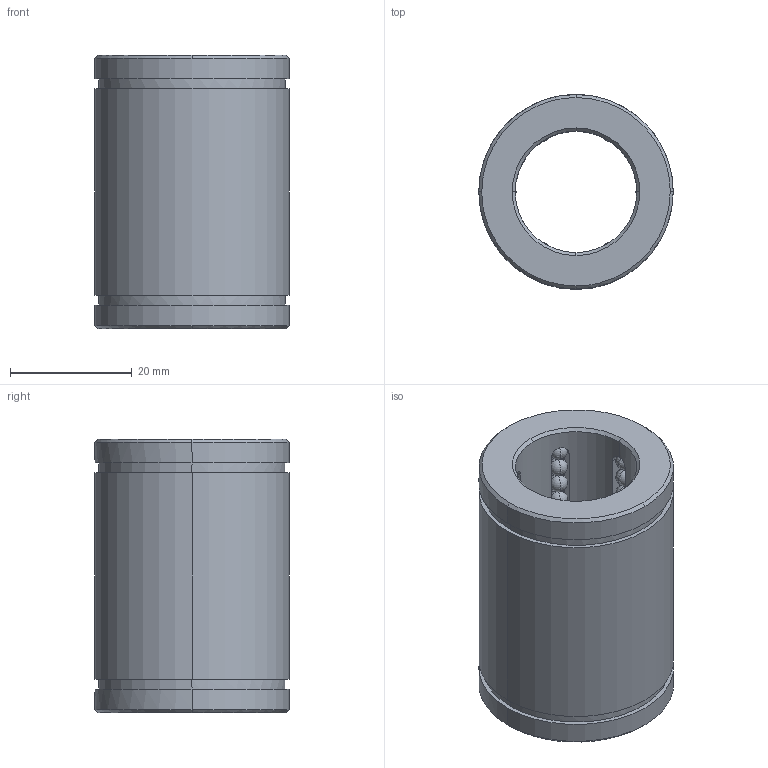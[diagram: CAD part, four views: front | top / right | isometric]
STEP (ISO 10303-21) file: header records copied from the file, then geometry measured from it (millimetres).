
FILE_DESCRIPTION(('CATIA V5 STEP Exchange'),'2;1');
FILE_NAME('C:\Users\Raffaele\Desktop\3D BOLEX\3D FILES CF BOLEX\3-BUSH REF 803\B8032045.stp','2019-06-19T14:09:30+00:00',('none'),('none'),'CATIA Version 5 Release 20 GA (IN-10)','CATIA V5 STEP AP203','none');
FILE_SCHEMA(('CONFIG_CONTROL_DESIGN'));
Length unit declared in the file: millimetre
Products named in the file (1): B8032045
Bounding box: 32 x 32 x 45 mm (x, y, z)
Volume: 20830.5 mm3; surface area: 11965.8 mm2
Topology: 73 solids, 73 shells, 352 faces, 1018 edges, 244 vertices
Faces by surface type: sphere 288, cylinder 24, plane 24, cone 16
Entity records: 6984 total; most frequent: CARTESIAN_POINT 1481, DIRECTION 1111, ORIENTED_EDGE 884, AXIS2_PLACEMENT_3D 682, EDGE_CURVE 442, EDGE_LOOP 362, ADVANCED_FACE 352, FACE_OUTER_BOUND 352
